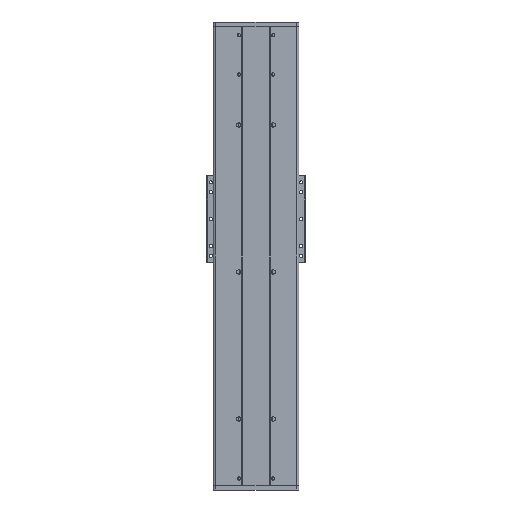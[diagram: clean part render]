
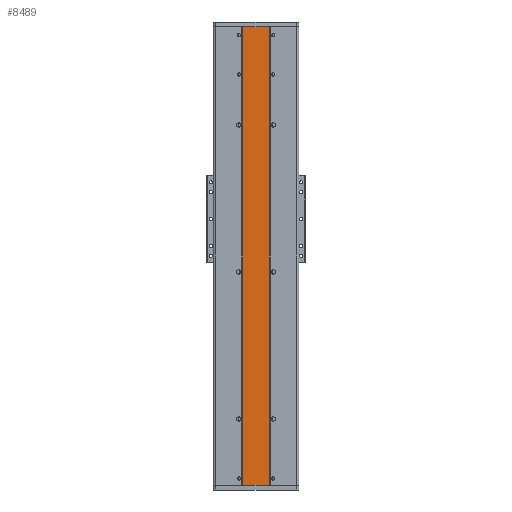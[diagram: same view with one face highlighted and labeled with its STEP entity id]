
A CAD part, front view. The second image highlights one B-rep face of the part: STEP entity #8489.
In plain terms, the highlighted planar face has unit normal (0, -1, 0).
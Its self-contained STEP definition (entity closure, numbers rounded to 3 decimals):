
#94 = VERTEX_POINT ( 'NONE', #18103 ) ;
#1941 = CARTESIAN_POINT ( 'NONE',  ( 1.27, -85.314, -945. ) ) ;
#2525 = FACE_OUTER_BOUND ( 'NONE', #15793, .T. ) ;
#3497 = VECTOR ( 'NONE', #4636, 1000. ) ;
#3521 = VERTEX_POINT ( 'NONE', #33588 ) ;
#4122 = ORIENTED_EDGE ( 'NONE', *, *, #30716, .F. ) ;
#4636 = DIRECTION ( 'NONE',  ( 0., 0., 1. ) ) ;
#5319 = DIRECTION ( 'NONE',  ( 0., 0., 1. ) ) ;
#5483 = VERTEX_POINT ( 'NONE', #42012 ) ;
#5494 = ORIENTED_EDGE ( 'NONE', *, *, #12662, .T. ) ;
#7797 = EDGE_CURVE ( 'NONE', #5483, #12263, #17002, .T. ) ;
#8489 = ADVANCED_FACE ( 'NONE', ( #2525 ), #34881, .F. ) ;
#9860 = AXIS2_PLACEMENT_3D ( 'NONE', #1941, #15172, #38185 ) ;
#10617 = VECTOR ( 'NONE', #5319, 1000. ) ;
#12263 = VERTEX_POINT ( 'NONE', #42329 ) ;
#12662 = EDGE_CURVE ( 'NONE', #3521, #5483, #31806, .T. ) ;
#15172 = DIRECTION ( 'NONE',  ( 0., 1., 0. ) ) ;
#15793 = EDGE_LOOP ( 'NONE', ( #5494, #24802, #34954, #4122 ) ) ;
#17002 = LINE ( 'NONE', #17341, #20616 ) ;
#17341 = CARTESIAN_POINT ( 'NONE',  ( 1.27, -85.314, 935. ) ) ;
#18103 = CARTESIAN_POINT ( 'NONE',  ( 1.27, -85.314, 0. ) ) ;
#20595 = CARTESIAN_POINT ( 'NONE',  ( 0., -85.314, 0. ) ) ;
#20616 = VECTOR ( 'NONE', #37084, 1000. ) ;
#24802 = ORIENTED_EDGE ( 'NONE', *, *, #7797, .T. ) ;
#27174 = DIRECTION ( 'NONE',  ( -1., 0., 0. ) ) ;
#28110 = LINE ( 'NONE', #31493, #10617 ) ;
#28778 = EDGE_CURVE ( 'NONE', #94, #12263, #28110, .T. ) ;
#30716 = EDGE_CURVE ( 'NONE', #3521, #94, #35232, .T. ) ;
#30948 = CARTESIAN_POINT ( 'NONE',  ( 58.27, -85.314, -945. ) ) ;
#31493 = CARTESIAN_POINT ( 'NONE',  ( 1.27, -85.314, -945. ) ) ;
#31806 = LINE ( 'NONE', #30948, #3497 ) ;
#33588 = CARTESIAN_POINT ( 'NONE',  ( 58.27, -85.314, 0. ) ) ;
#34881 = PLANE ( 'NONE',  #9860 ) ;
#34954 = ORIENTED_EDGE ( 'NONE', *, *, #28778, .F. ) ;
#35232 = LINE ( 'NONE', #20595, #36267 ) ;
#36267 = VECTOR ( 'NONE', #27174, 1000. ) ;
#37084 = DIRECTION ( 'NONE',  ( -1., 0., 0. ) ) ;
#38185 = DIRECTION ( 'NONE',  ( 0., 0., 1. ) ) ;
#42012 = CARTESIAN_POINT ( 'NONE',  ( 58.27, -85.314, 935. ) ) ;
#42329 = CARTESIAN_POINT ( 'NONE',  ( 1.27, -85.314, 935. ) ) ;
